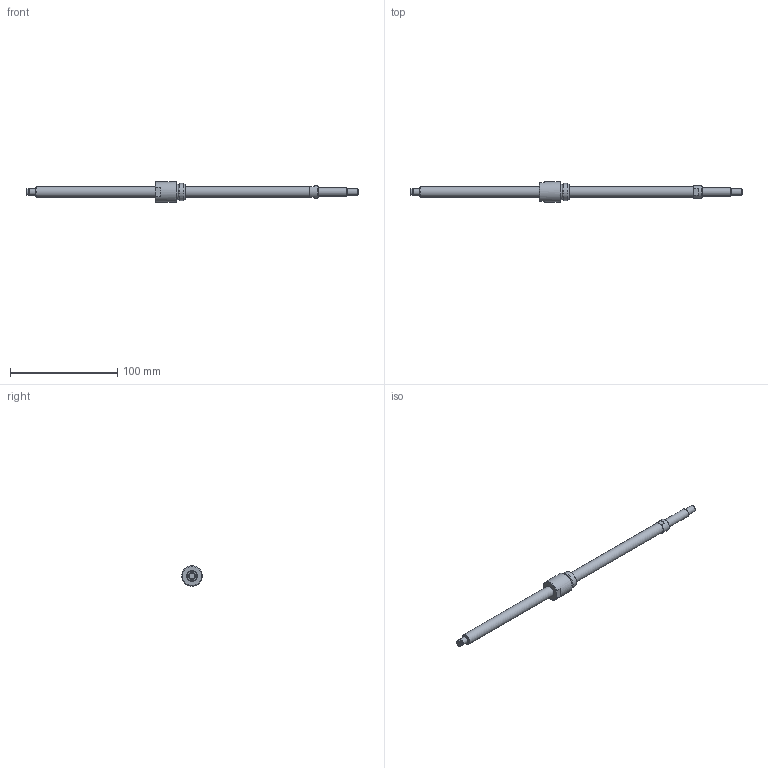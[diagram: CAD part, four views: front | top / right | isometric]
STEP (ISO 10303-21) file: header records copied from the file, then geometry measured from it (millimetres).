
FILE_DESCRIPTION(/* description */ ('STEP AP214'),/* implementation_level */ '2;1');
FILE_NAME(/* name */ 'NSG1004-251R310C5B0X(111.5)',/* time_stamp */ '2026-08-20T15:49:37+02:00',/* author */ ('License CC BY-ND 4.0'),/* organization */ ('CADENAS'),/* preprocessor_version */ 'ST-DEVELOPER v20',/* originating_system */ 'PARTsolutions',/* authorisation */ ' ');
FILE_SCHEMA (('AUTOMOTIVE_DESIGN {1 0 10303 214 3 1 1}'));
Length unit declared in the file: millimetre
Products named in the file (3): NSG1004-251R310C5B0X(111.5); NSG1004-251R310C3B_shaft; NSG1004_nut
Assembly tree (2 placements, depth 2):
  NSG1004-251R310C5B0X(111.5)
    NSG1004-251R310C3B_shaft
    NSG1004_nut
Bounding box: 310 x 19 x 19 mm (x, y, z)
Volume: 27700 mm3; surface area: 12413.9 mm2
Topology: 2 solids, 2 shells, 42 faces, 83 edges, 51 vertices
Faces by surface type: plane 20, cylinder 11, cone 10, torus 1
Full cylindrical faces by diameter (mm): 5.7 x1, 6 x3, 8 x1, 10 x2, 11.5 x1, 14.4 x1, 16 x1, 19 x1
Entity records: 1047 total; most frequent: DIRECTION 186, CARTESIAN_POINT 167, ORIENTED_EDGE 122, AXIS2_PLACEMENT_3D 84, EDGE_LOOP 70, FACE_BOUND 70, EDGE_CURVE 61, VERTEX_POINT 49
